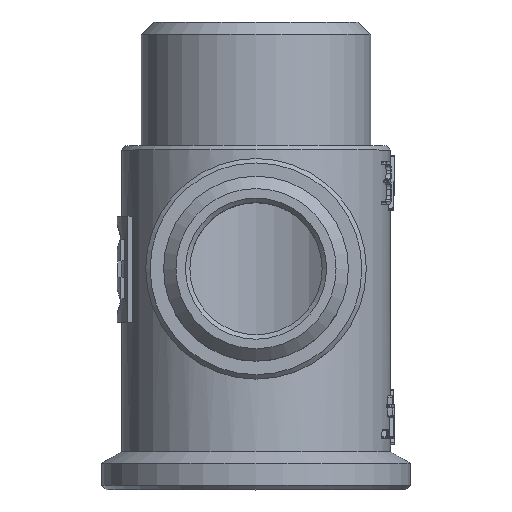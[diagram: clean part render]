
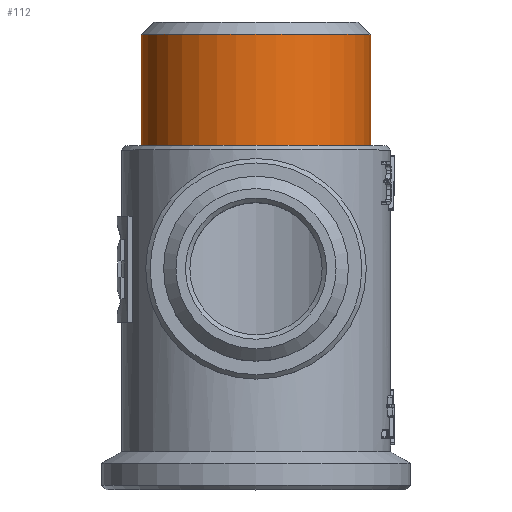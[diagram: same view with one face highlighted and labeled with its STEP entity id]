
A CAD part, top view. The second image highlights one B-rep face of the part: STEP entity #112.
In plain terms, the highlighted cylindrical face has radius 13 mm (diameter 26 mm), a full revolution.
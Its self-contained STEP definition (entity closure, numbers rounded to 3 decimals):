
#112=ADVANCED_FACE('',(#1260,#1262),#1264,.T.);
#1260=FACE_OUTER_BOUND('',#1261,.T.);
#1261=EDGE_LOOP('',(#3602));
#1262=FACE_OUTER_BOUND('',#1263,.T.);
#1263=EDGE_LOOP('',(#3603));
#1264=CYLINDRICAL_SURFACE('',#1265,13.);
#1265=AXIS2_PLACEMENT_3D('',#1266,#1267,#1268);
#1266=CARTESIAN_POINT('',(0.,14.,0.));
#1267=DIRECTION('',(0.,-1.,0.));
#1268=DIRECTION('',(-1.,0.,0.));
#3602=ORIENTED_EDGE('',*,*,#5802,.F.);
#3603=ORIENTED_EDGE('',*,*,#5930,.F.);
#5802=EDGE_CURVE('',#6983,#6983,#6984,.F.);
#5930=EDGE_CURVE('',#7191,#7191,#7192,.T.);
#6983=VERTEX_POINT('',#10544);
#6984=CIRCLE('',#10545,13.);
#7191=VERTEX_POINT('',#11515);
#7192=CIRCLE('',#11516,13.);
#10544=CARTESIAN_POINT('',(-13.,26.6,0.));
#10545=AXIS2_PLACEMENT_3D('',#10546,#10547,#10548);
#10546=CARTESIAN_POINT('',(0.,26.6,0.));
#10547=DIRECTION('',(0.,-1.,0.));
#10548=DIRECTION('',(-1.,0.,0.));
#11515=CARTESIAN_POINT('',(-13.,14.,0.));
#11516=AXIS2_PLACEMENT_3D('',#11517,#11518,#11519);
#11517=CARTESIAN_POINT('',(0.,14.,0.));
#11518=DIRECTION('',(0.,-1.,0.));
#11519=DIRECTION('',(-1.,0.,0.));
